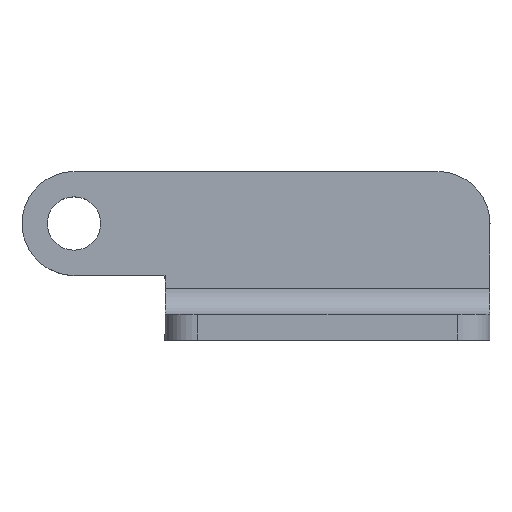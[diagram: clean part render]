
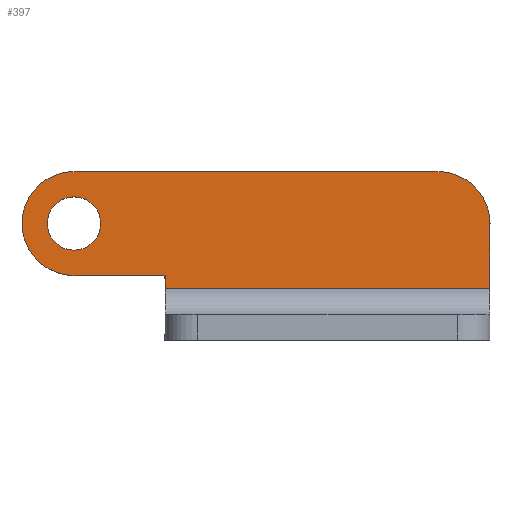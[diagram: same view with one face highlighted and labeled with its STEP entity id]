
A CAD part, top view. The second image highlights one B-rep face of the part: STEP entity #397.
In plain terms, the highlighted planar face has unit normal (0, 0, 1).
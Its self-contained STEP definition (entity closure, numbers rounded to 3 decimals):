
#1 = DIRECTION ( 'NONE',  ( 1., 0., 0. ) ) ;
#13 = ORIENTED_EDGE ( 'NONE', *, *, #865, .T. ) ;
#25 = DIRECTION ( 'NONE',  ( -1., 0., 0. ) ) ;
#31 = CARTESIAN_POINT ( 'NONE',  ( -50., 0., 4. ) ) ;
#47 = CARTESIAN_POINT ( 'NONE',  ( -64., 10., 4. ) ) ;
#67 = LINE ( 'NONE', #298, #271 ) ;
#68 = EDGE_CURVE ( 'NONE', #228, #622, #155, .T. ) ;
#84 = CARTESIAN_POINT ( 'NONE',  ( 0., 10., 4. ) ) ;
#93 = VERTEX_POINT ( 'NONE', #380 ) ;
#117 = EDGE_CURVE ( 'NONE', #270, #553, #889, .T. ) ;
#124 = CARTESIAN_POINT ( 'NONE',  ( -64., 2., 4. ) ) ;
#125 = EDGE_CURVE ( 'NONE', #716, #435, #184, .T. ) ;
#144 = DIRECTION ( 'NONE',  ( 0., 0., 1. ) ) ;
#145 = EDGE_LOOP ( 'NONE', ( #647 ) ) ;
#147 = DIRECTION ( 'NONE',  ( 0., 1., 0. ) ) ;
#151 = AXIS2_PLACEMENT_3D ( 'NONE', #363, #642, #1 ) ;
#154 = CARTESIAN_POINT ( 'NONE',  ( -8., 18., 4. ) ) ;
#155 = LINE ( 'NONE', #299, #259 ) ;
#164 = CARTESIAN_POINT ( 'NONE',  ( 0., 10., 4. ) ) ;
#184 = CIRCLE ( 'NONE', #151, 8. ) ;
#215 = CARTESIAN_POINT ( 'NONE',  ( -8., 10., 4. ) ) ;
#226 = VECTOR ( 'NONE', #581, 1000. ) ;
#228 = VERTEX_POINT ( 'NONE', #399 ) ;
#259 = VECTOR ( 'NONE', #372, 1000. ) ;
#262 = EDGE_LOOP ( 'NONE', ( #13, #404, #739, #680, #472, #657, #277 ) ) ;
#270 = VERTEX_POINT ( 'NONE', #164 ) ;
#271 = VECTOR ( 'NONE', #361, 1000. ) ;
#277 = ORIENTED_EDGE ( 'NONE', *, *, #68, .T. ) ;
#289 = AXIS2_PLACEMENT_3D ( 'NONE', #47, #902, #563 ) ;
#298 = CARTESIAN_POINT ( 'NONE',  ( -50., 2., 4. ) ) ;
#299 = CARTESIAN_POINT ( 'NONE',  ( -50., 0., 4. ) ) ;
#340 = LINE ( 'NONE', #620, #744 ) ;
#361 = DIRECTION ( 'NONE',  ( 1., 0., 0. ) ) ;
#363 = CARTESIAN_POINT ( 'NONE',  ( -64., 10., 4. ) ) ;
#372 = DIRECTION ( 'NONE',  ( 0., -1., 0. ) ) ;
#380 = CARTESIAN_POINT ( 'NONE',  ( -68.1, 10., 4. ) ) ;
#388 = DIRECTION ( 'NONE',  ( 0., 0., 1. ) ) ;
#397 = ADVANCED_FACE ( 'NONE', ( #768, #560 ), #823, .F. ) ;
#399 = CARTESIAN_POINT ( 'NONE',  ( -50., 2., 4. ) ) ;
#404 = ORIENTED_EDGE ( 'NONE', *, *, #469, .T. ) ;
#428 = DIRECTION ( 'NONE',  ( 1., 0., 0. ) ) ;
#435 = VERTEX_POINT ( 'NONE', #124 ) ;
#439 = LINE ( 'NONE', #871, #226 ) ;
#469 = EDGE_CURVE ( 'NONE', #504, #270, #908, .T. ) ;
#472 = ORIENTED_EDGE ( 'NONE', *, *, #125, .T. ) ;
#485 = EDGE_CURVE ( 'NONE', #435, #228, #67, .T. ) ;
#504 = VERTEX_POINT ( 'NONE', #508 ) ;
#508 = CARTESIAN_POINT ( 'NONE',  ( 0., 0., 4. ) ) ;
#553 = VERTEX_POINT ( 'NONE', #154 ) ;
#560 = FACE_OUTER_BOUND ( 'NONE', #262, .T. ) ;
#563 = DIRECTION ( 'NONE',  ( 1., 0., 0. ) ) ;
#581 = DIRECTION ( 'NONE',  ( -1., 0., 0. ) ) ;
#595 = CARTESIAN_POINT ( 'NONE',  ( -64., 10., 4. ) ) ;
#604 = EDGE_CURVE ( 'NONE', #93, #93, #802, .T. ) ;
#620 = CARTESIAN_POINT ( 'NONE',  ( 0., 0., 4. ) ) ;
#622 = VERTEX_POINT ( 'NONE', #31 ) ;
#642 = DIRECTION ( 'NONE',  ( 0., 0., 1. ) ) ;
#647 = ORIENTED_EDGE ( 'NONE', *, *, #604, .F. ) ;
#653 = VECTOR ( 'NONE', #147, 1000. ) ;
#657 = ORIENTED_EDGE ( 'NONE', *, *, #485, .T. ) ;
#680 = ORIENTED_EDGE ( 'NONE', *, *, #890, .T. ) ;
#708 = CARTESIAN_POINT ( 'NONE',  ( -64., 18., 4. ) ) ;
#711 = AXIS2_PLACEMENT_3D ( 'NONE', #595, #388, #25 ) ;
#716 = VERTEX_POINT ( 'NONE', #708 ) ;
#739 = ORIENTED_EDGE ( 'NONE', *, *, #117, .T. ) ;
#744 = VECTOR ( 'NONE', #896, 1000. ) ;
#768 = FACE_BOUND ( 'NONE', #145, .T. ) ;
#802 = CIRCLE ( 'NONE', #711, 4.1 ) ;
#823 = PLANE ( 'NONE',  #289 ) ;
#857 = AXIS2_PLACEMENT_3D ( 'NONE', #215, #144, #428 ) ;
#865 = EDGE_CURVE ( 'NONE', #622, #504, #340, .T. ) ;
#871 = CARTESIAN_POINT ( 'NONE',  ( -64., 18., 4. ) ) ;
#889 = CIRCLE ( 'NONE', #857, 8. ) ;
#890 = EDGE_CURVE ( 'NONE', #553, #716, #439, .T. ) ;
#896 = DIRECTION ( 'NONE',  ( 1., 0., 0. ) ) ;
#902 = DIRECTION ( 'NONE',  ( 0., 0., -1. ) ) ;
#908 = LINE ( 'NONE', #84, #653 ) ;
